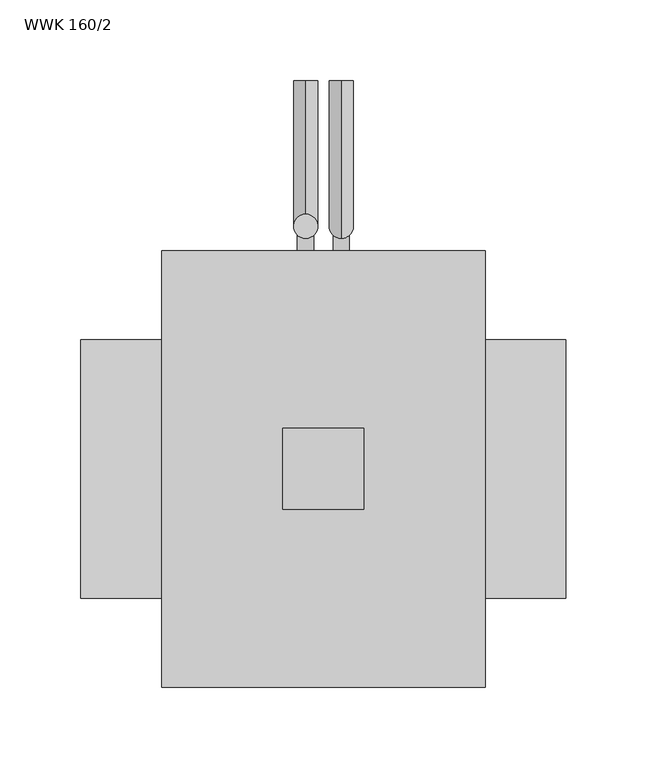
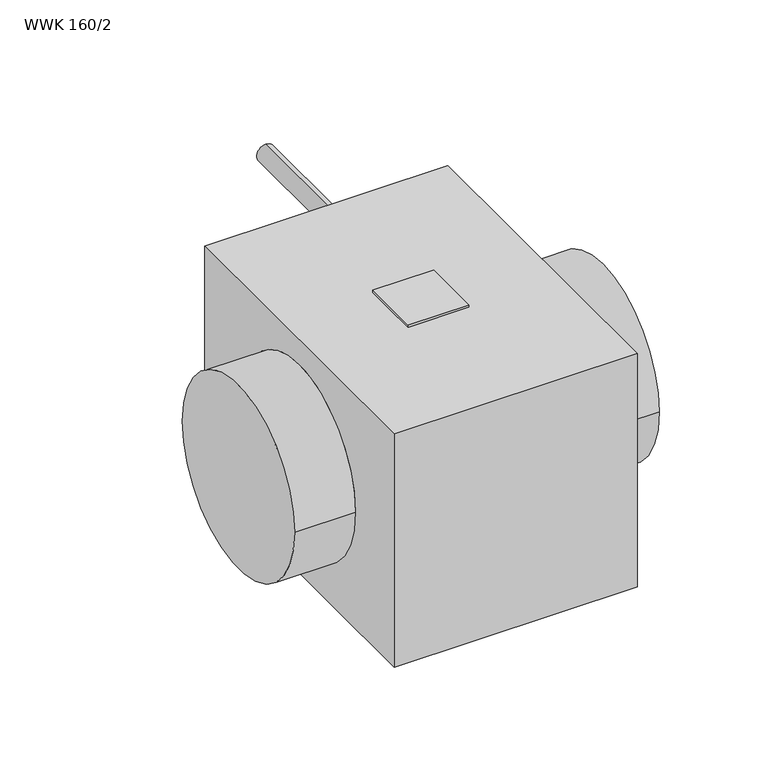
"""IFC4 building model written with IfcOpenShell, lengths in millimetres: proxy geometry, KORF_Нагреватель_Водяной_Круглый_WWK : WWK 160/2."""

from ifc_helpers import new_model, si_unit, point, frame, frame_2d, origin, place, context, project, spatial, polyline, circle_curve, ellipse_curve, trimmed, segment, composite_curve, outline, extrude, source, transform, mapped, element, save
from ifc_brep_helpers import plane_surface, cylinder_surface, advanced_brep


def wwk_160_2_bb5e4d03(model_context):
    return source(origin(), model_context, "Body", "SolidModel", [
        extrude(outline(polyline([(175.0, 25.0), (175.0, -25.0), (125.0, -25.0), (125.0, 25.0), (175.0, 25.0)])), frame((0.0, 0.0, 101.5), z_axis=(0.0, 0.0, 1.0), x_axis=(1.0, 0.0, 0.0)), (0.0, 0.0, 1.0), 2.0),
        advanced_brep(
        [(300.0, -80.0, 0.0), (300.0, 80.0, 0.0), (0.0, -80.0, 0.0), (0.0, 80.0, 0.0), (250.0, -80.0, 0.0), (250.0, 80.0, 0.0), (50.0, 80.0, 0.0), (50.0, -80.0, 0.0), (250.0, -135.0, 101.5), (250.0, -135.0, -101.5), (250.0, 135.0, -101.5), (250.0, 135.0, 101.5), (50.0, -135.0, 101.5), (50.0, 135.0, 101.5), (50.0, 135.0, -101.5), (50.0, -135.0, -101.5), (53.0, 135.0, 98.5), (53.0, 135.0, -98.5), (247.0, 135.0, -98.5), (247.0, 135.0, 98.5), (53.0, 115.0, 98.5), (247.0, 115.0, 98.5), (247.0, 115.0, -98.5), (53.0, 115.0, -98.5)],
        [
            (0, 1, circle_curve(frame((300.0, 0.0, 0.0), z_axis=(1.0, 0.0, 0.0), x_axis=(0.0, 1.0, 0.0)), 80.0)),
            (1, 0, circle_curve(frame((300.0, 0.0, 0.0), z_axis=(1.0, 0.0, 0.0), x_axis=(0.0, 1.0, 0.0)), 80.0)),
            (2, 3, circle_curve(frame((0.0, 0.0, 0.0), z_axis=(-1.0, 0.0, 0.0), x_axis=(0.0, 1.0, 0.0)), 80.0)),
            (3, 2, circle_curve(frame((0.0, 0.0, 0.0), z_axis=(-1.0, 0.0, 0.0), x_axis=(0.0, 1.0, 0.0)), 80.0)),
            (0, 4),
            (4, 5, circle_curve(frame((250.0, 0.0, 0.0), z_axis=(1.0, 0.0, 0.0), x_axis=(0.0, 1.0, 0.0)), 80.0)),
            (5, 1),
            (3, 6),
            (6, 7, circle_curve(frame((50.0, 0.0, 0.0), z_axis=(-1.0, 0.0, 0.0), x_axis=(0.0, 1.0, 0.0)), 80.0)),
            (7, 2),
            (5, 4, circle_curve(frame((250.0, 0.0, 0.0), z_axis=(1.0, 0.0, 0.0), x_axis=(0.0, 1.0, 0.0)), 80.0)),
            (7, 6, circle_curve(frame((50.0, 0.0, 0.0), z_axis=(-1.0, 0.0, 0.0), x_axis=(0.0, 1.0, 0.0)), 80.0)),
            (8, 9),
            (9, 10),
            (10, 11),
            (11, 8),
            (12, 13),
            (13, 14),
            (14, 15),
            (15, 12),
            (8, 12),
            (15, 9),
            (14, 10),
            (13, 11),
            (16, 17),
            (17, 18),
            (18, 19),
            (19, 16),
            (20, 21),
            (21, 22),
            (22, 23),
            (23, 20),
            (23, 17),
            (16, 20),
            (22, 18),
            (21, 19),
        ],
        [
            plane_surface(frame((300.0, 80.0, 0.0), z_axis=(1.0, 0.0, 0.0), x_axis=(0.0, 0.0, 1.0))),
            plane_surface(frame((0.0, 80.0, 0.0), z_axis=(-1.0, 0.0, 0.0), x_axis=(0.0, 0.0, -1.0))),
            cylinder_surface(frame((0.0, 0.0, 0.0), z_axis=(1.0, 0.0, 0.0), x_axis=(0.0, 1.0, 0.0)), 80.0),
            plane_surface(frame((250.0, -135.0, 101.5), z_axis=(1.0, 0.0, 0.0), x_axis=(0.0, 0.0, -1.0))),
            plane_surface(frame((50.0, -135.0, 101.5), z_axis=(-1.0, 0.0, 0.0), x_axis=(0.0, 0.0, 1.0))),
            plane_surface(frame((250.0, -135.0, 101.5), z_axis=(0.0, -1.0, 0.0), x_axis=(-1.0, 0.0, 0.0))),
            plane_surface(frame((250.0, -135.0, -101.5), z_axis=(0.0, 0.0, -1.0), x_axis=(-1.0, 0.0, 0.0))),
            plane_surface(frame((250.0, 135.0, -101.5), z_axis=(0.0, 1.0, 0.0), x_axis=(-1.0, 0.0, 0.0))),
            plane_surface(frame((250.0, 135.0, 101.5), z_axis=(0.0, 0.0, 1.0), x_axis=(-1.0, 0.0, 0.0))),
            plane_surface(frame((53.0, 115.0, 98.5), z_axis=(0.0, 1.0, 0.0), x_axis=(0.0, 0.0, -1.0))),
            plane_surface(frame((53.0, 115.0, 98.5), z_axis=(1.0, 0.0, 0.0), x_axis=(0.0, 1.0, 0.0))),
            plane_surface(frame((53.0, 115.0, -98.5), z_axis=(0.0, 0.0, 1.0), x_axis=(0.0, 1.0, 0.0))),
            plane_surface(frame((247.0, 115.0, -98.5), z_axis=(-1.0, 0.0, 0.0), x_axis=(0.0, 1.0, 0.0))),
            plane_surface(frame((247.0, 115.0, 98.5), z_axis=(0.0, 0.0, -1.0), x_axis=(0.0, 1.0, 0.0))),
        ],
        [
            (0, [[1, 2]]),
            (1, [[3, 4]]),
            (2, [[-1, 5, 6, 7]]),
            (2, [[-4, 8, 9, 10]]),
            (2, [[-2, -7, 11, -5]]),
            (2, [[-3, -10, 12, -8]]),
            (3, [[13, 14, 15, 16], [-6, -11]]),
            (4, [[17, 18, 19, 20], [-9, -12]]),
            (5, [[-13, 21, -20, 22]]),
            (6, [[-14, -22, -19, 23]]),
            (7, [[-15, -23, -18, 24], [25, 26, 27, 28]]),
            (8, [[-16, -24, -17, -21]]),
            (9, [[29, 30, 31, 32]]),
            (10, [[-32, 33, -25, 34]]),
            (11, [[-31, 35, -26, -33]]),
            (12, [[-30, 36, -27, -35]]),
            (13, [[-29, -34, -28, -36]]),
        ],
    ),
        extrude(outline(composite_curve([segment(trimmed(circle_curve(frame_2d((80.0, 161.0)), 5.0), [point((80.0, 156.0))], [point((80.0, 166.0))], False, "CARTESIAN"), True, "CONTINUOUS"), segment(trimmed(circle_curve(frame_2d((80.0, 161.0)), 5.0), [point((80.0, 166.0))], [point((80.0, 156.0))], False, "CARTESIAN"), True, "CONTINUOUS")], self_intersect=False)), frame((0.0, 135.0, 0.0), z_axis=(0.0, 1.0, 0.0), x_axis=(0.0, 0.0, 1.0)), (0.0, 0.0, 1.0), 15.0),
        extrude(outline(composite_curve([segment(trimmed(circle_curve(frame_2d((32.0, 161.0)), 5.0), [point((32.0, 156.0))], [point((32.0, 166.0))], False, "CARTESIAN"), True, "CONTINUOUS"), segment(trimmed(circle_curve(frame_2d((32.0, 161.0)), 5.0), [point((32.0, 166.0))], [point((32.0, 156.0))], False, "CARTESIAN"), True, "CONTINUOUS")], self_intersect=False)), frame((0.0, 135.0, 0.0), z_axis=(0.0, 1.0, 0.0), x_axis=(0.0, 0.0, 1.0)), (0.0, 0.0, 1.0), 15.0),
        extrude(outline(composite_curve([segment(trimmed(circle_curve(frame_2d((-16.0, 161.0)), 5.0), [point((-16.0, 156.0))], [point((-16.0, 166.0))], False, "CARTESIAN"), True, "CONTINUOUS"), segment(trimmed(circle_curve(frame_2d((-16.0, 161.0)), 5.0), [point((-16.0, 166.0))], [point((-16.0, 156.0))], False, "CARTESIAN"), True, "CONTINUOUS")], self_intersect=False)), frame((0.0, 135.0, 0.0), z_axis=(0.0, 1.0, 0.0), x_axis=(0.0, 0.0, 1.0)), (0.0, 0.0, 1.0), 15.0),
        extrude(outline(composite_curve([segment(trimmed(circle_curve(frame_2d((16.0, 139.0)), 5.0), [point((16.0, 134.0))], [point((16.0, 144.0))], False, "CARTESIAN"), True, "CONTINUOUS"), segment(trimmed(circle_curve(frame_2d((16.0, 139.0)), 5.0), [point((16.0, 144.0))], [point((16.0, 134.0))], False, "CARTESIAN"), True, "CONTINUOUS")], self_intersect=False)), frame((0.0, 135.0, 0.0), z_axis=(0.0, 1.0, 0.0), x_axis=(0.0, 0.0, 1.0)), (0.0, 0.0, 1.0), 15.0),
        extrude(outline(composite_curve([segment(trimmed(circle_curve(frame_2d((-32.0, 139.0)), 5.0), [point((-32.0, 134.0))], [point((-32.0, 144.0))], False, "CARTESIAN"), True, "CONTINUOUS"), segment(trimmed(circle_curve(frame_2d((-32.0, 139.0)), 5.0), [point((-32.0, 144.0))], [point((-32.0, 134.0))], False, "CARTESIAN"), True, "CONTINUOUS")], self_intersect=False)), frame((0.0, 135.0, 0.0), z_axis=(0.0, 1.0, 0.0), x_axis=(0.0, 0.0, 1.0)), (0.0, 0.0, 1.0), 15.0),
        extrude(outline(composite_curve([segment(trimmed(circle_curve(frame_2d((-80.0, 139.0)), 5.0), [point((-80.0, 134.0))], [point((-80.0, 144.0))], False, "CARTESIAN"), True, "CONTINUOUS"), segment(trimmed(circle_curve(frame_2d((-80.0, 139.0)), 5.0), [point((-80.0, 144.0))], [point((-80.0, 134.0))], False, "CARTESIAN"), True, "CONTINUOUS")], self_intersect=False)), frame((0.0, 135.0, 0.0), z_axis=(0.0, 1.0, 0.0), x_axis=(0.0, 0.0, 1.0)), (0.0, 0.0, 1.0), 15.0),
        advanced_brep(
        [(139.0, 240.0, -72.5), (139.0, 240.0, -87.5), (139.0, 157.5, -72.5), (139.0, 142.5, -87.5), (139.0, 157.5, 64.0), (139.0, 142.5, 64.0)],
        [
            (0, 1, circle_curve(frame((139.0, 240.0, -80.0), z_axis=(0.0, 1.0, 0.0), x_axis=(0.0, 0.0, -1.0)), 7.5)),
            (1, 0, circle_curve(frame((139.0, 240.0, -80.0), z_axis=(0.0, 1.0, 0.0), x_axis=(0.0, 0.0, -1.0)), 7.5)),
            (0, 2),
            (2, 3, ellipse_curve(frame((139.0, 150.0, -80.0), z_axis=(0.0, 0.7071067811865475, -0.7071067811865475), x_axis=(0.0, 0.7071067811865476, 0.7071067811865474)), 10.6066017, 7.5)),
            (3, 1),
            (3, 2, ellipse_curve(frame((139.0, 150.0, -80.0), z_axis=(0.0, 0.7071067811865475, -0.7071067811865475), x_axis=(0.0, 0.7071067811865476, 0.7071067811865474)), 10.6066017, 7.5)),
            (4, 5, circle_curve(frame((139.0, 150.0, 64.0), z_axis=(0.0, 0.0, 1.0), x_axis=(0.0, -1.0, 0.0)), 7.5)),
            (5, 4, circle_curve(frame((139.0, 150.0, 64.0), z_axis=(0.0, 0.0, 1.0), x_axis=(0.0, -1.0, 0.0)), 7.5)),
            (2, 4),
            (5, 3),
        ],
        [
            plane_surface(frame((139.0, 240.0, -80.0), z_axis=(0.0, 1.0, 0.0), x_axis=(1.0, 0.0, 0.0))),
            cylinder_surface(frame((139.0, 240.0, -80.0), z_axis=(0.0, 1.0, 0.0), x_axis=(0.0, 0.0, -1.0)), 7.5),
            plane_surface(frame((139.0, 150.0, 64.0), z_axis=(0.0, 0.0, 1.0), x_axis=(1.0, 0.0, 0.0))),
            cylinder_surface(frame((139.0, 150.0, -80.0), z_axis=(0.0, 0.0, -1.0), x_axis=(0.0, -1.0, 0.0)), 7.5),
        ],
        [
            (0, [[1, 2]]),
            (1, [[-1, 3, 4, 5]]),
            (1, [[-2, -5, 6, -3]]),
            (2, [[7, 8]]),
            (3, [[-4, 9, -8, 10]]),
            (3, [[-6, -10, -7, -9]]),
        ],
    ),
        advanced_brep(
        [(161.0, 240.0, 72.5), (161.0, 240.0, 87.5), (161.0, 157.5, 72.5), (161.0, 142.5, 87.5), (161.0, 157.5, -64.0), (161.0, 142.5, -64.0)],
        [
            (0, 1, circle_curve(frame((161.0, 240.0, 80.0), z_axis=(0.0, 1.0, 0.0), x_axis=(0.0, 0.0, 1.0)), 7.5)),
            (1, 0, circle_curve(frame((161.0, 240.0, 80.0), z_axis=(0.0, 1.0, 0.0), x_axis=(0.0, 0.0, 1.0)), 7.5)),
            (0, 2),
            (2, 3, ellipse_curve(frame((161.0, 150.0, 80.0), z_axis=(0.0, 0.7071067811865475, 0.7071067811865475), x_axis=(0.0, 0.7071067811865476, -0.7071067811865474)), 10.6066017, 7.5)),
            (3, 1),
            (3, 2, ellipse_curve(frame((161.0, 150.0, 80.0), z_axis=(0.0, 0.7071067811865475, 0.7071067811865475), x_axis=(0.0, 0.7071067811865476, -0.7071067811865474)), 10.6066017, 7.5)),
            (4, 5, circle_curve(frame((161.0, 150.0, -64.0), z_axis=(0.0, 0.0, -1.0), x_axis=(0.0, -1.0, 0.0)), 7.5)),
            (5, 4, circle_curve(frame((161.0, 150.0, -64.0), z_axis=(0.0, 0.0, -1.0), x_axis=(0.0, -1.0, 0.0)), 7.5)),
            (2, 4),
            (5, 3),
        ],
        [
            plane_surface(frame((161.0, 240.0, 80.0), z_axis=(0.0, 1.0, 0.0), x_axis=(-1.0, 0.0, 0.0))),
            cylinder_surface(frame((161.0, 240.0, 80.0), z_axis=(0.0, 1.0, 0.0), x_axis=(0.0, 0.0, 1.0)), 7.5),
            plane_surface(frame((161.0, 150.0, -64.0), z_axis=(0.0, 0.0, -1.0), x_axis=(-1.0, 0.0, 0.0))),
            cylinder_surface(frame((161.0, 150.0, 80.0), z_axis=(0.0, 0.0, 1.0), x_axis=(0.0, -1.0, 0.0)), 7.5),
        ],
        [
            (0, [[1, 2]]),
            (1, [[-1, 3, 4, 5]]),
            (1, [[-2, -5, 6, -3]]),
            (2, [[7, 8]]),
            (3, [[-4, 9, -8, 10]]),
            (3, [[-6, -10, -7, -9]]),
        ],
    ),
    ])


if __name__ == "__main__":
    model = new_model("IFC4")
    model_context = context("Model", 3, world=origin())
    ifc_project = project(units=[si_unit("LENGTHUNIT", "METRE", prefix="MILLI")], contexts=[model_context])
    site = spatial("IfcSite", under=ifc_project)
    building = spatial("IfcBuilding", under=site)
    placement = place(None, origin())
    wwk_160_2_shape = wwk_160_2_bb5e4d03(model_context)
    element("IfcBuildingElementProxy", 1, Name="KORF_Нагреватель_Водяной_Круглый_WWK : WWK 160/2", ObjectType="KORF_Нагреватель_Водяной_Круглый_WWK : WWK 160/2", at=placement, inside=building, context=model_context, shape_type="MappedRepresentation", body=[
        mapped(wwk_160_2_shape, transform((0.0, 0.0, 0.0), x_axis=(1.0, 0.0, 0.0), y_axis=(0.0, 1.0, 0.0), z_axis=(0.0, 0.0, 1.0))),
    ])
    save(model, "model.ifc")
